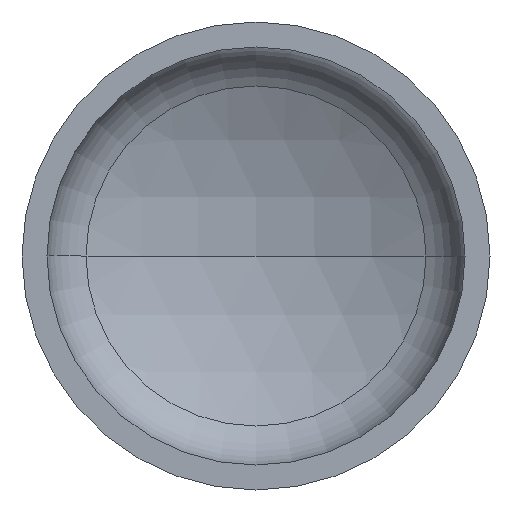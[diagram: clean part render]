
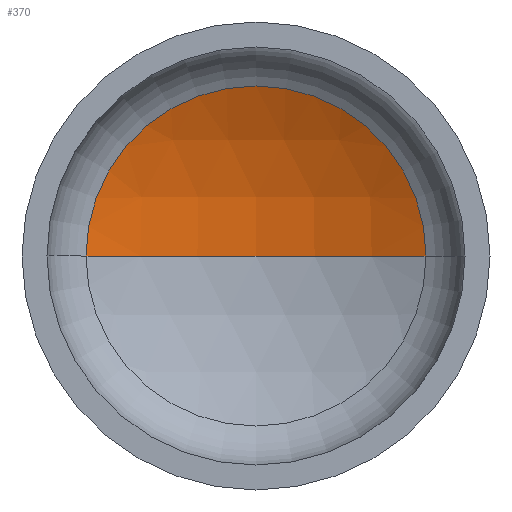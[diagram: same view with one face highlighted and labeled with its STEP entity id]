
A CAD part, front view. The second image highlights one B-rep face of the part: STEP entity #370.
In plain terms, the highlighted spherical face has radius 1440 mm.
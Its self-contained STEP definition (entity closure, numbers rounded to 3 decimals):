
#18 = VERTEX_POINT ( 'NONE', #256 ) ;
#22 = EDGE_LOOP ( 'NONE', ( #38, #112, #104 ) ) ;
#32 = DIRECTION ( 'NONE',  ( -1., 0., 0. ) ) ;
#35 = DIRECTION ( 'NONE',  ( 1., 0., 0. ) ) ;
#38 = ORIENTED_EDGE ( 'NONE', *, *, #150, .F. ) ;
#39 = VERTEX_POINT ( 'NONE', #292 ) ;
#52 = AXIS2_PLACEMENT_3D ( 'NONE', #226, #262, #258 ) ;
#59 = DIRECTION ( 'NONE',  ( 0., -1., 0. ) ) ;
#63 = AXIS2_PLACEMENT_3D ( 'NONE', #201, #217, #218 ) ;
#66 = CARTESIAN_POINT ( 'NONE',  ( 0., 345.015, 0. ) ) ;
#67 = AXIS2_PLACEMENT_3D ( 'NONE', #66, #59, #35 ) ;
#96 = VERTEX_POINT ( 'NONE', #285 ) ;
#104 = ORIENTED_EDGE ( 'NONE', *, *, #147, .T. ) ;
#112 = ORIENTED_EDGE ( 'NONE', *, *, #149, .T. ) ;
#147 = EDGE_CURVE ( 'NONE', #39, #96, #409, .T. ) ;
#149 = EDGE_CURVE ( 'NONE', #18, #39, #161, .T. ) ;
#150 = EDGE_CURVE ( 'NONE', #18, #96, #403, .T. ) ;
#158 = CARTESIAN_POINT ( 'NONE',  ( 0., -937.971, 0. ) ) ;
#161 = CIRCLE ( 'NONE', #63, 1440. ) ;
#162 = AXIS2_PLACEMENT_3D ( 'NONE', #158, #267, #32 ) ;
#201 = CARTESIAN_POINT ( 'NONE',  ( 0., -937.971, 0. ) ) ;
#217 = DIRECTION ( 'NONE',  ( 0., 0., -1. ) ) ;
#218 = DIRECTION ( 'NONE',  ( -1., 0., 0. ) ) ;
#226 = CARTESIAN_POINT ( 'NONE',  ( 0., -937.971, 0. ) ) ;
#245 = SPHERICAL_SURFACE ( 'NONE', #162, 1440. ) ;
#256 = CARTESIAN_POINT ( 'NONE',  ( 0., 502.029, 0. ) ) ;
#258 = DIRECTION ( 'NONE',  ( 1., 0., 0. ) ) ;
#262 = DIRECTION ( 'NONE',  ( 0., 0., 1. ) ) ;
#267 = DIRECTION ( 'NONE',  ( 0., 0., -1. ) ) ;
#285 = CARTESIAN_POINT ( 'NONE',  ( -653.871, 345.015, 0. ) ) ;
#292 = CARTESIAN_POINT ( 'NONE',  ( 653.871, 345.015, 0. ) ) ;
#369 = FACE_OUTER_BOUND ( 'NONE', #22, .T. ) ;
#370 = ADVANCED_FACE ( 'NONE', ( #369 ), #245, .F. ) ;
#403 = CIRCLE ( 'NONE', #52, 1440. ) ;
#409 = CIRCLE ( 'NONE', #67, 653.871 ) ;
